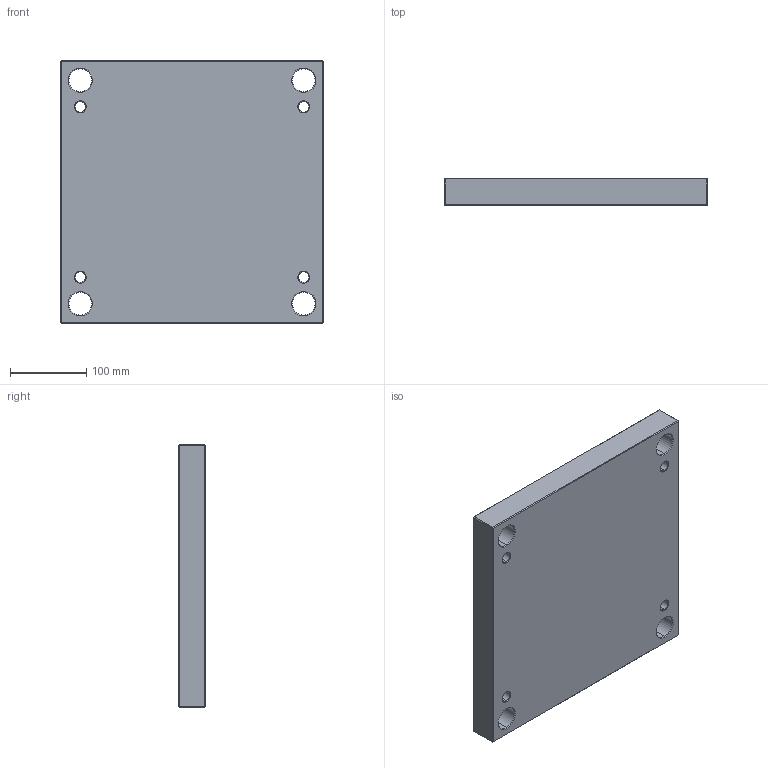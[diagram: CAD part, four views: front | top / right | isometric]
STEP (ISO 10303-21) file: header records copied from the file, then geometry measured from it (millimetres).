
FILE_DESCRIPTION (( 'STEP AP214' ), '1' );
FILE_NAME ('PBAS-EU-346x346x36.STEP', '2020-03-23T15:19:07', ( 'August' ), ( '' ), 'SwSTEP 2.0', 'SolidWorks 2018', '' );
FILE_SCHEMA (( 'AUTOMOTIVE_DESIGN' ));
Length unit declared in the file: millimetre
Products named in the file (1): PBAS-EU-346x346x36
Bounding box: 346 x 36 x 346 mm (x, y, z)
Volume: 4174790.9 mm3; surface area: 300950.4 mm2
Topology: 1 solids, 1 shells, 86 faces, 184 edges, 104 vertices
Faces by surface type: cone 32, plane 30, cylinder 24
Entity records: 2346 total; most frequent: DIRECTION 438, CARTESIAN_POINT 375, ORIENTED_EDGE 368, EDGE_CURVE 184, AXIS2_PLACEMENT_3D 167, EDGE_LOOP 106, VECTOR 104, VERTEX_POINT 104
